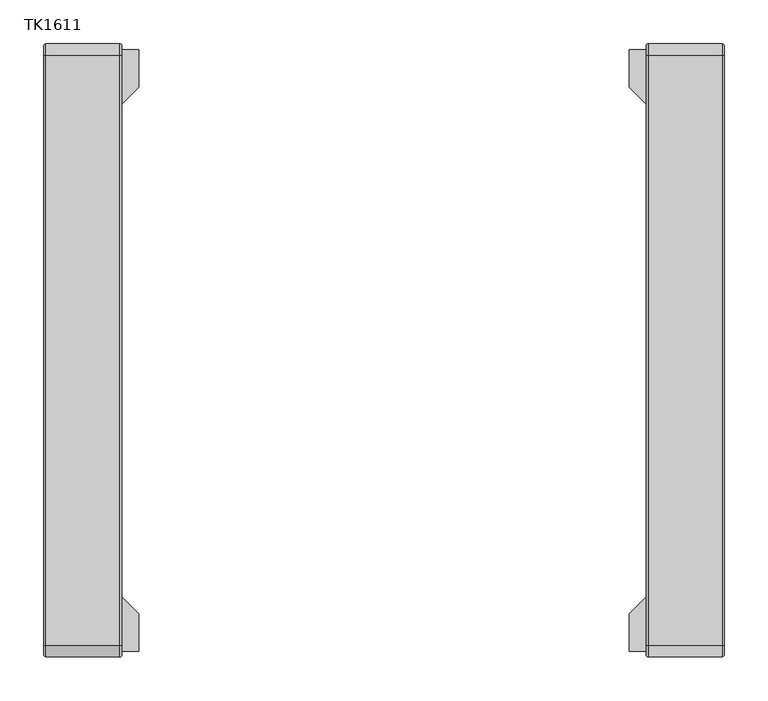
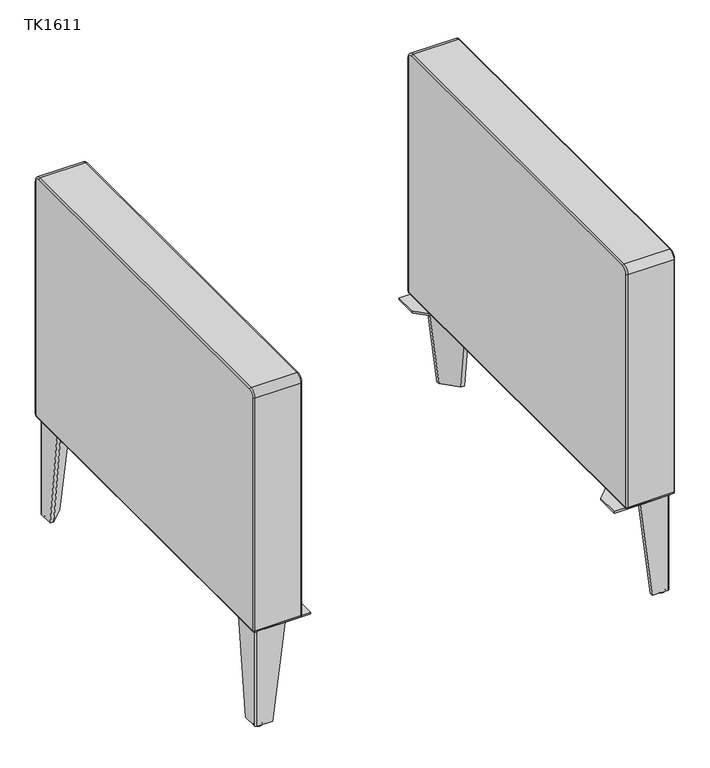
"""IFC4 building model written with IfcOpenShell, lengths in millimetres: furniture geometry, JSI-Teekan-Single_Seat_Lounge : TK1611."""

from ifc_helpers import new_model, si_unit, point, frame, origin, place, context, project, spatial, polyline, circle_curve, ellipse_curve, trimmed, outline, extrude, source, transform, mapped, element, save
from ifc_brep_helpers import plane_surface, cylinder_surface, revolved_surface, spline_surface, advanced_brep


def tk1611_fd0749d8(model_context):
    return source(origin(), model_context, "Body", "SolidModel", [
        advanced_brep(
        [(371.0013333, -340.133006, 3.1926572), (371.0013333, -325.6863843, 3.1926572), (371.0013333, -325.6863843, 4.9994321), (371.0013333, -340.133006, 4.9994321), (371.0013333, -336.9403488, 0.0), (371.0013333, -328.8790415, 0.0), (371.0013333, -332.9096951, 0.0), (371.0013333, -332.9096951, 4.9994321)],
        [
            (0, 1, circle_curve(frame((371.0013333, -332.9096951, 3.1926572), z_axis=(0.0, 0.0, 1.0), x_axis=(0.0, 1.0, 0.0)), 7.2233108)),
            (1, 2),
            (2, 3, circle_curve(frame((371.0013333, -332.9096951, 4.9994321), z_axis=(0.0, 0.0, -1.0), x_axis=(0.0, 1.0, 0.0)), 7.2233108)),
            (3, 0),
            (1, 0, circle_curve(frame((371.0013333, -332.9096951, 3.1926572), z_axis=(0.0, 0.0, 1.0), x_axis=(0.0, 1.0, 0.0)), 7.2233108)),
            (3, 2, circle_curve(frame((371.0013333, -332.9096951, 4.9994321), z_axis=(0.0, 0.0, -1.0), x_axis=(0.0, 1.0, 0.0)), 7.2233108)),
            (4, 5, circle_curve(frame((371.0013333, -332.9096951, 0.0), z_axis=(0.0, 0.0, 1.0), x_axis=(0.0, 1.0, 0.0)), 4.0306536)),
            (5, 1, circle_curve(frame((371.0013333, -328.8790415, 3.1926572), z_axis=(1.0, 0.0, 0.0), x_axis=(0.0, 1.0, 0.0)), 3.1926572)),
            (0, 4, circle_curve(frame((371.0013333, -336.9403488, 3.1926572), z_axis=(1.0, 0.0, 0.0), x_axis=(0.0, -1.0, 0.0)), 3.1926572)),
            (5, 4, circle_curve(frame((371.0013333, -332.9096951, 0.0), z_axis=(0.0, 0.0, 1.0), x_axis=(0.0, 1.0, 0.0)), 4.0306536)),
            (6, 5),
            (4, 6),
            (2, 7),
            (7, 3),
        ],
        [
            cylinder_surface(frame((371.0013333, -332.9096951, 14.2077797), z_axis=(0.0, 0.0, -1.0), x_axis=(0.0, 1.0, 0.0)), 7.2233108),
            revolved_surface(trimmed(ellipse_curve(frame((371.0013333, -328.8790415, 3.1926572), z_axis=(-1.0, 0.0, 0.0), x_axis=(0.0, 1.0, 0.0)), 3.1926572, 3.1926572), [point((371.0013333, -325.6863843, 3.1926572))], [point((371.0013333, -328.8790415, 0.0))], True, "CARTESIAN"), (371.0013333, -332.9096951, 14.2077797), (0.0, 0.0, -1.0)),
            plane_surface(frame((371.0013333, -332.9096951, 0.0), z_axis=(0.0, 0.0, -1.0), x_axis=(0.0, 1.0, 0.0))),
            plane_surface(frame((371.0013333, -332.9096951, 4.9994321), z_axis=(0.0, 0.0, 1.0), x_axis=(0.0, 1.0, 0.0))),
        ],
        [
            (0, [[1, 2, 3, 4]]),
            (0, [[5, -4, 6, -2]]),
            (1, [[7, 8, -1, 9]]),
            (1, [[10, -9, -5, -8]]),
            (2, [[11, -7, 12]]),
            (2, [[-12, -10, -11]]),
            (3, [[-3, 13, 14]]),
            (3, [[-6, -14, -13]]),
        ],
    ),
        advanced_brep(
        [(327.025, -336.5496631, 189.4817329), (327.025, -342.9, 189.4817329), (377.825, -342.9, 189.4817329), (381.0, -339.725, 189.4817329), (381.0, -288.9246631, 189.4817329), (374.65, -288.9246631, 189.4817329), (349.25, -336.5496631, 4.9994321), (374.65, -311.1496631, 4.9994321), (381.0, -311.1496631, 4.9994321), (381.0, -339.6969923, 4.9994321), (377.7969923, -342.9, 4.9994321), (349.25, -342.9, 4.9994321)],
        [
            (0, 1),
            (1, 2),
            (2, 3, circle_curve(frame((377.825, -339.725, 189.4817329), z_axis=(0.0, 0.0, 1.0), x_axis=(-1.0, 0.0, 0.0)), 3.175)),
            (3, 4),
            (4, 5),
            (5, 0),
            (6, 7),
            (7, 8),
            (8, 9),
            (9, 10, circle_curve(frame((377.7969923, -339.6969923, 4.9994321), z_axis=(0.0, 0.0, -1.0), x_axis=(-1.0, 0.0, 0.0)), 3.2030077)),
            (10, 11),
            (11, 6),
            (11, 1),
            (0, 6),
            (10, 2),
            (9, 3),
            (8, 4),
            (7, 5),
        ],
        [
            plane_surface(frame((361.4208333, -323.3206649, 189.4817329), z_axis=(0.0, 0.0, 1.0), x_axis=(-1.0, 0.0, 0.0))),
            plane_surface(frame((368.8244987, -330.7243303, 4.9994321), z_axis=(0.0, 0.0, -1.0), x_axis=(-1.0, 0.0, 0.0))),
            plane_surface(frame((349.25, -339.7248316, 4.9994321), z_axis=(-0.9928212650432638, 0.0, -0.11960742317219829), x_axis=(0.0, -1.0, 0.0))),
            plane_surface(frame((363.5234961, -342.9, 4.9994321), z_axis=(0.0, -1.0, 0.0), x_axis=(1.0, 0.0, 0.0))),
            spline_surface(2, 1, [[(377.7969923, -342.9, 4.9994321), (377.825, -342.9, 189.4817329)], [(381.0, -342.9, 4.9994321), (380.99999999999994, -342.9, 189.4817329)], [(381.0, -339.6969923, 4.9994321), (381.0, -339.725, 189.4817329)]], [3, 3], [2, 2], [0.0, 1.0], [0.0, 1.0], weights=[[1.0, 1.0], [0.7071067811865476, 0.7071067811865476], [1.0, 1.0]]),
            plane_surface(frame((381.0, -325.4233277, 4.9994321), z_axis=(1.0, 0.0, 0.0), x_axis=(0.0, 1.0, 0.0))),
            plane_surface(frame((377.825, -311.1496631, 4.9994321), z_axis=(0.0, 0.992821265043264, -0.11960742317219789), x_axis=(-1.0, 0.0, 0.0))),
            plane_surface(frame((361.95, -323.8496631, 4.9994321), z_axis=(-0.7045550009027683, 0.7045550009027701, -0.08487933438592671), x_axis=(-0.7071067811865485, -0.7071067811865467, 0.0))),
        ],
        [
            (0, [[1, 2, 3, 4, 5, 6]]),
            (1, [[7, 8, 9, 10, 11, 12]]),
            (2, [[-12, 13, -1, 14]]),
            (3, [[-11, 15, -2, -13]]),
            (4, [[-10, 16, -3, -15]]),
            (5, [[-9, 17, -4, -16]]),
            (6, [[-8, 18, -5, -17]]),
            (7, [[-7, -14, -6, -18]]),
        ],
    ),
        extrude(outline(polyline([(279.4, -342.9), (279.4, -300.0375), (338.1375, -241.3), (381.0, -241.3), (381.0, -342.9), (279.4, -342.9)])), frame((0.0, 0.0, 189.4817329), z_axis=(0.0, 0.0, 1.0), x_axis=(1.0, 0.0, 0.0)), (0.0, 0.0, 1.0), 3.175),
        advanced_brep(
        [(-371.0013333, -340.133006, 3.1926572), (-371.0013333, -340.133006, 4.9994321), (-371.0013333, -325.6863843, 4.9994321), (-371.0013333, -325.6863843, 3.1926572), (-371.0013333, -336.9403488, 0.0), (-371.0013333, -328.8790415, 0.0), (-371.0013333, -332.9096951, 0.0), (-371.0013333, -332.9096951, 4.9994321)],
        [
            (0, 1),
            (1, 2, circle_curve(frame((-371.0013333, -332.9096951, 4.9994321), z_axis=(0.0, 0.0, -1.0), x_axis=(0.0, 1.0, 0.0)), 7.2233108)),
            (2, 3),
            (3, 0, circle_curve(frame((-371.0013333, -332.9096951, 3.1926572), z_axis=(0.0, 0.0, 1.0), x_axis=(0.0, 1.0, 0.0)), 7.2233108)),
            (2, 1, circle_curve(frame((-371.0013333, -332.9096951, 4.9994321), z_axis=(0.0, 0.0, -1.0), x_axis=(0.0, 1.0, 0.0)), 7.2233108)),
            (0, 3, circle_curve(frame((-371.0013333, -332.9096951, 3.1926572), z_axis=(0.0, 0.0, 1.0), x_axis=(0.0, 1.0, 0.0)), 7.2233108)),
            (4, 0, circle_curve(frame((-371.0013333, -336.9403488, 3.1926572), z_axis=(-1.0, 0.0, 0.0), x_axis=(0.0, -1.0, 0.0)), 3.1926572)),
            (3, 5, circle_curve(frame((-371.0013333, -328.8790415, 3.1926572), z_axis=(-1.0, 0.0, 0.0), x_axis=(0.0, 1.0, 0.0)), 3.1926572)),
            (5, 4, circle_curve(frame((-371.0013333, -332.9096951, 0.0), z_axis=(0.0, 0.0, 1.0), x_axis=(0.0, 1.0, 0.0)), 4.0306536)),
            (4, 5, circle_curve(frame((-371.0013333, -332.9096951, 0.0), z_axis=(0.0, 0.0, 1.0), x_axis=(0.0, 1.0, 0.0)), 4.0306536)),
            (6, 4),
            (5, 6),
            (1, 7),
            (7, 2),
        ],
        [
            cylinder_surface(frame((-371.0013333, -332.9096951, 14.2077797), z_axis=(0.0, 0.0, -1.0), x_axis=(0.0, 1.0, 0.0)), 7.2233108),
            revolved_surface(trimmed(ellipse_curve(frame((-371.0013333, -328.8790415, 3.1926572), z_axis=(-1.0, 0.0, 0.0), x_axis=(0.0, 1.0, 0.0)), 3.1926572, 3.1926572), [point((-371.0013333, -325.6863843, 3.1926572))], [point((-371.0013333, -328.8790415, 0.0))], True, "CARTESIAN"), (-371.0013333, -332.9096951, 14.2077797), (0.0, 0.0, -1.0)),
            plane_surface(frame((-371.0013333, -332.9096951, 0.0), z_axis=(0.0, 0.0, -1.0), x_axis=(0.0, 1.0, 0.0))),
            plane_surface(frame((-371.0013333, -332.9096951, 4.9994321), z_axis=(0.0, 0.0, 1.0), x_axis=(0.0, 1.0, 0.0))),
        ],
        [
            (0, [[1, 2, 3, 4]]),
            (0, [[-3, 5, -1, 6]]),
            (1, [[7, -4, 8, 9]]),
            (1, [[-8, -6, -7, 10]]),
            (2, [[11, -9, 12]]),
            (2, [[-12, -10, -11]]),
            (3, [[13, 14, -2]]),
            (3, [[-14, -13, -5]]),
        ],
    ),
        advanced_brep(
        [(-327.025, -336.5496631, 189.4817329), (-374.65, -288.9246631, 189.4817329), (-381.0, -288.9246631, 189.4817329), (-381.0, -339.725, 189.4817329), (-377.825, -342.9, 189.4817329), (-327.025, -342.9, 189.4817329), (-349.25, -336.5496631, 4.9994321), (-349.25, -342.9, 4.9994321), (-377.7969923, -342.9, 4.9994321), (-381.0, -339.6969923, 4.9994321), (-381.0, -311.1496631, 4.9994321), (-374.65, -311.1496631, 4.9994321)],
        [
            (0, 1),
            (1, 2),
            (2, 3),
            (3, 4, circle_curve(frame((-377.825, -339.725, 189.4817329), z_axis=(0.0, 0.0, 1.0), x_axis=(1.0, 0.0, 0.0)), 3.175)),
            (4, 5),
            (5, 0),
            (6, 7),
            (7, 8),
            (8, 9, circle_curve(frame((-377.7969923, -339.6969923, 4.9994321), z_axis=(0.0, 0.0, -1.0), x_axis=(1.0, 0.0, 0.0)), 3.2030077)),
            (9, 10),
            (10, 11),
            (11, 6),
            (6, 0),
            (5, 7),
            (4, 8),
            (3, 9),
            (2, 10),
            (1, 11),
        ],
        [
            plane_surface(frame((-361.4208333, -323.3206649, 189.4817329), z_axis=(0.0, 0.0, 1.0), x_axis=(1.0, 0.0, 0.0))),
            plane_surface(frame((-368.8244987, -330.7243303, 4.9994321), z_axis=(0.0, 0.0, -1.0), x_axis=(1.0, 0.0, 0.0))),
            plane_surface(frame((-349.25, -339.7248316, 4.9994321), z_axis=(0.9928212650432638, 0.0, -0.11960742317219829), x_axis=(0.0, -1.0, 0.0))),
            plane_surface(frame((-363.5234961, -342.9, 4.9994321), z_axis=(0.0, -1.0, 0.0), x_axis=(-1.0, 0.0, 0.0))),
            spline_surface(1, 2, [[(-377.7969923, -342.9, 4.9994321), (-381.0, -342.9, 4.9994321), (-381.0, -339.6969923, 4.9994321)], [(-377.825, -342.9, 189.4817329), (-380.99999999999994, -342.9, 189.4817329), (-381.0, -339.725, 189.4817329)]], [2, 2], [3, 3], [0.0, 1.0], [0.0, 1.0], weights=[[1.0, 0.7071067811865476, 1.0], [1.0, 0.7071067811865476, 1.0]]),
            plane_surface(frame((-381.0, -325.4233277, 4.9994321), z_axis=(-1.0, 0.0, 0.0), x_axis=(0.0, 1.0, 0.0))),
            plane_surface(frame((-377.825, -311.1496631, 4.9994321), z_axis=(0.0, 0.992821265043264, -0.11960742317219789), x_axis=(1.0, 0.0, 0.0))),
            plane_surface(frame((-361.95, -323.8496631, 4.9994321), z_axis=(0.7045550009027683, 0.7045550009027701, -0.08487933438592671), x_axis=(0.7071067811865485, -0.7071067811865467, 0.0))),
        ],
        [
            (0, [[1, 2, 3, 4, 5, 6]]),
            (1, [[7, 8, 9, 10, 11, 12]]),
            (2, [[13, -6, 14, -7]]),
            (3, [[-14, -5, 15, -8]]),
            (4, [[-15, -4, 16, -9]]),
            (5, [[-16, -3, 17, -10]]),
            (6, [[-17, -2, 18, -11]]),
            (7, [[-18, -1, -13, -12]]),
        ],
    ),
        extrude(outline(polyline([(-279.4, -342.9), (-381.0, -342.9), (-381.0, -241.3), (-338.1375, -241.3), (-279.4, -300.0375), (-279.4, -342.9)])), frame((0.0, 0.0, 189.4817329), z_axis=(0.0, 0.0, 1.0), x_axis=(1.0, 0.0, 0.0)), (0.0, 0.0, 1.0), 3.175),
        advanced_brep(
        [(371.0013333, 340.133006, 3.1926572), (371.0013333, 340.133006, 4.9994321), (371.0013333, 325.6863843, 4.9994321), (371.0013333, 325.6863843, 3.1926572), (371.0013333, 336.9403488, 0.0), (371.0013333, 328.8790415, 0.0), (371.0013333, 332.9096951, 0.0), (371.0013333, 332.9096951, 4.9994321)],
        [
            (0, 1),
            (1, 2, circle_curve(frame((371.0013333, 332.9096951, 4.9994321), z_axis=(0.0, 0.0, -1.0), x_axis=(0.0, -1.0, 0.0)), 7.2233108)),
            (2, 3),
            (3, 0, circle_curve(frame((371.0013333, 332.9096951, 3.1926572), z_axis=(0.0, 0.0, 1.0), x_axis=(0.0, -1.0, 0.0)), 7.2233108)),
            (2, 1, circle_curve(frame((371.0013333, 332.9096951, 4.9994321), z_axis=(0.0, 0.0, -1.0), x_axis=(0.0, -1.0, 0.0)), 7.2233108)),
            (0, 3, circle_curve(frame((371.0013333, 332.9096951, 3.1926572), z_axis=(0.0, 0.0, 1.0), x_axis=(0.0, -1.0, 0.0)), 7.2233108)),
            (4, 0, circle_curve(frame((371.0013333, 336.9403488, 3.1926572), z_axis=(1.0, 0.0, 0.0), x_axis=(0.0, 1.0, 0.0)), 3.1926572)),
            (3, 5, circle_curve(frame((371.0013333, 328.8790415, 3.1926572), z_axis=(1.0, 0.0, 0.0), x_axis=(0.0, -1.0, 0.0)), 3.1926572)),
            (5, 4, circle_curve(frame((371.0013333, 332.9096951, 0.0), z_axis=(0.0, 0.0, 1.0), x_axis=(0.0, -1.0, 0.0)), 4.0306536)),
            (4, 5, circle_curve(frame((371.0013333, 332.9096951, 0.0), z_axis=(0.0, 0.0, 1.0), x_axis=(0.0, -1.0, 0.0)), 4.0306536)),
            (6, 4),
            (5, 6),
            (1, 7),
            (7, 2),
        ],
        [
            cylinder_surface(frame((371.0013333, 332.9096951, 14.2077797), z_axis=(0.0, 0.0, -1.0), x_axis=(0.0, -1.0, 0.0)), 7.2233108),
            revolved_surface(trimmed(ellipse_curve(frame((371.0013333, 328.8790415, 3.1926572), z_axis=(1.0, 0.0, 0.0), x_axis=(0.0, -1.0, 0.0)), 3.1926572, 3.1926572), [point((371.0013333, 325.6863843, 3.1926572))], [point((371.0013333, 328.8790415, 0.0))], True, "CARTESIAN"), (371.0013333, 332.9096951, 14.2077797), (0.0, 0.0, -1.0)),
            plane_surface(frame((371.0013333, 332.9096951, 0.0), z_axis=(0.0, 0.0, -1.0), x_axis=(0.0, -1.0, 0.0))),
            plane_surface(frame((371.0013333, 332.9096951, 4.9994321), z_axis=(0.0, 0.0, 1.0), x_axis=(0.0, -1.0, 0.0))),
        ],
        [
            (0, [[1, 2, 3, 4]]),
            (0, [[-3, 5, -1, 6]]),
            (1, [[7, -4, 8, 9]]),
            (1, [[-8, -6, -7, 10]]),
            (2, [[11, -9, 12]]),
            (2, [[-12, -10, -11]]),
            (3, [[13, 14, -2]]),
            (3, [[-14, -13, -5]]),
        ],
    ),
        advanced_brep(
        [(327.025, 336.5496631, 189.4817329), (374.65, 288.9246631, 189.4817329), (381.0, 288.9246631, 189.4817329), (381.0, 339.725, 189.4817329), (377.825, 342.9, 189.4817329), (327.025, 342.9, 189.4817329), (349.25, 336.5496631, 4.9994321), (349.25, 342.9, 4.9994321), (377.7969923, 342.9, 4.9994321), (381.0, 339.6969923, 4.9994321), (381.0, 311.1496631, 4.9994321), (374.65, 311.1496631, 4.9994321)],
        [
            (0, 1),
            (1, 2),
            (2, 3),
            (3, 4, circle_curve(frame((377.825, 339.725, 189.4817329), z_axis=(0.0, 0.0, 1.0), x_axis=(-1.0, 0.0, 0.0)), 3.175)),
            (4, 5),
            (5, 0),
            (6, 7),
            (7, 8),
            (8, 9, circle_curve(frame((377.7969923, 339.6969923, 4.9994321), z_axis=(0.0, 0.0, -1.0), x_axis=(-1.0, 0.0, 0.0)), 3.2030077)),
            (9, 10),
            (10, 11),
            (11, 6),
            (6, 0),
            (5, 7),
            (4, 8),
            (3, 9),
            (2, 10),
            (1, 11),
        ],
        [
            plane_surface(frame((361.4208333, 323.3206649, 189.4817329), z_axis=(0.0, 0.0, 1.0), x_axis=(-1.0, 0.0, 0.0))),
            plane_surface(frame((368.8244987, 330.7243303, 4.9994321), z_axis=(0.0, 0.0, -1.0), x_axis=(-1.0, 0.0, 0.0))),
            plane_surface(frame((349.25, 339.7248316, 4.9994321), z_axis=(-0.9928212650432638, 0.0, -0.11960742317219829), x_axis=(0.0, 1.0, 0.0))),
            plane_surface(frame((363.5234961, 342.9, 4.9994321), z_axis=(0.0, 1.0, 0.0), x_axis=(1.0, 0.0, 0.0))),
            spline_surface(1, 2, [[(377.7969923, 342.9, 4.9994321), (381.0, 342.9, 4.9994321), (381.0, 339.6969923, 4.9994321)], [(377.825, 342.9, 189.4817329), (380.99999999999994, 342.9, 189.4817329), (381.0, 339.725, 189.4817329)]], [2, 2], [3, 3], [0.0, 1.0], [0.0, 1.0], weights=[[1.0, 0.7071067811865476, 1.0], [1.0, 0.7071067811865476, 1.0]]),
            plane_surface(frame((381.0, 325.4233277, 4.9994321), z_axis=(1.0, 0.0, 0.0), x_axis=(0.0, -1.0, 0.0))),
            plane_surface(frame((377.825, 311.1496631, 4.9994321), z_axis=(0.0, -0.992821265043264, -0.11960742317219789), x_axis=(-1.0, 0.0, 0.0))),
            plane_surface(frame((361.95, 323.8496631, 4.9994321), z_axis=(-0.7045550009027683, -0.7045550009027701, -0.08487933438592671), x_axis=(-0.7071067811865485, 0.7071067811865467, 0.0))),
        ],
        [
            (0, [[1, 2, 3, 4, 5, 6]]),
            (1, [[7, 8, 9, 10, 11, 12]]),
            (2, [[13, -6, 14, -7]]),
            (3, [[-14, -5, 15, -8]]),
            (4, [[-15, -4, 16, -9]]),
            (5, [[-16, -3, 17, -10]]),
            (6, [[-17, -2, 18, -11]]),
            (7, [[-18, -1, -13, -12]]),
        ],
    ),
        extrude(outline(polyline([(279.4, 342.9), (381.0, 342.9), (381.0, 241.3), (338.1375, 241.3), (279.4, 300.0375), (279.4, 342.9)])), frame((0.0, 0.0, 189.4817329), z_axis=(0.0, 0.0, 1.0), x_axis=(1.0, 0.0, 0.0)), (0.0, 0.0, 1.0), 3.175),
        advanced_brep(
        [(-371.0013333, 340.133006, 3.1926572), (-371.0013333, 325.6863843, 3.1926572), (-371.0013333, 325.6863843, 4.9994321), (-371.0013333, 340.133006, 4.9994321), (-371.0013333, 336.9403488, 0.0), (-371.0013333, 328.8790415, 0.0), (-371.0013333, 332.9096951, 0.0), (-371.0013333, 332.9096951, 4.9994321)],
        [
            (0, 1, circle_curve(frame((-371.0013333, 332.9096951, 3.1926572), z_axis=(0.0, 0.0, 1.0), x_axis=(0.0, -1.0, 0.0)), 7.2233108)),
            (1, 2),
            (2, 3, circle_curve(frame((-371.0013333, 332.9096951, 4.9994321), z_axis=(0.0, 0.0, -1.0), x_axis=(0.0, -1.0, 0.0)), 7.2233108)),
            (3, 0),
            (1, 0, circle_curve(frame((-371.0013333, 332.9096951, 3.1926572), z_axis=(0.0, 0.0, 1.0), x_axis=(0.0, -1.0, 0.0)), 7.2233108)),
            (3, 2, circle_curve(frame((-371.0013333, 332.9096951, 4.9994321), z_axis=(0.0, 0.0, -1.0), x_axis=(0.0, -1.0, 0.0)), 7.2233108)),
            (4, 5, circle_curve(frame((-371.0013333, 332.9096951, 0.0), z_axis=(0.0, 0.0, 1.0), x_axis=(0.0, -1.0, 0.0)), 4.0306536)),
            (5, 1, circle_curve(frame((-371.0013333, 328.8790415, 3.1926572), z_axis=(-1.0, 0.0, 0.0), x_axis=(0.0, -1.0, 0.0)), 3.1926572)),
            (0, 4, circle_curve(frame((-371.0013333, 336.9403488, 3.1926572), z_axis=(-1.0, 0.0, 0.0), x_axis=(0.0, 1.0, 0.0)), 3.1926572)),
            (5, 4, circle_curve(frame((-371.0013333, 332.9096951, 0.0), z_axis=(0.0, 0.0, 1.0), x_axis=(0.0, -1.0, 0.0)), 4.0306536)),
            (6, 5),
            (4, 6),
            (2, 7),
            (7, 3),
        ],
        [
            cylinder_surface(frame((-371.0013333, 332.9096951, 14.2077797), z_axis=(0.0, 0.0, -1.0), x_axis=(0.0, -1.0, 0.0)), 7.2233108),
            revolved_surface(trimmed(ellipse_curve(frame((-371.0013333, 328.8790415, 3.1926572), z_axis=(1.0, 0.0, 0.0), x_axis=(0.0, -1.0, 0.0)), 3.1926572, 3.1926572), [point((-371.0013333, 325.6863843, 3.1926572))], [point((-371.0013333, 328.8790415, 0.0))], True, "CARTESIAN"), (-371.0013333, 332.9096951, 14.2077797), (0.0, 0.0, -1.0)),
            plane_surface(frame((-371.0013333, 332.9096951, 0.0), z_axis=(0.0, 0.0, -1.0), x_axis=(0.0, -1.0, 0.0))),
            plane_surface(frame((-371.0013333, 332.9096951, 4.9994321), z_axis=(0.0, 0.0, 1.0), x_axis=(0.0, -1.0, 0.0))),
        ],
        [
            (0, [[1, 2, 3, 4]]),
            (0, [[5, -4, 6, -2]]),
            (1, [[7, 8, -1, 9]]),
            (1, [[10, -9, -5, -8]]),
            (2, [[11, -7, 12]]),
            (2, [[-12, -10, -11]]),
            (3, [[-3, 13, 14]]),
            (3, [[-6, -14, -13]]),
        ],
    ),
        advanced_brep(
        [(-327.025, 336.5496631, 189.4817329), (-327.025, 342.9, 189.4817329), (-377.825, 342.9, 189.4817329), (-381.0, 339.725, 189.4817329), (-381.0, 288.9246631, 189.4817329), (-374.65, 288.9246631, 189.4817329), (-349.25, 336.5496631, 4.9994321), (-374.65, 311.1496631, 4.9994321), (-381.0, 311.1496631, 4.9994321), (-381.0, 339.6969923, 4.9994321), (-377.7969923, 342.9, 4.9994321), (-349.25, 342.9, 4.9994321)],
        [
            (0, 1),
            (1, 2),
            (2, 3, circle_curve(frame((-377.825, 339.725, 189.4817329), z_axis=(0.0, 0.0, 1.0), x_axis=(1.0, 0.0, 0.0)), 3.175)),
            (3, 4),
            (4, 5),
            (5, 0),
            (6, 7),
            (7, 8),
            (8, 9),
            (9, 10, circle_curve(frame((-377.7969923, 339.6969923, 4.9994321), z_axis=(0.0, 0.0, -1.0), x_axis=(1.0, 0.0, 0.0)), 3.2030077)),
            (10, 11),
            (11, 6),
            (11, 1),
            (0, 6),
            (10, 2),
            (9, 3),
            (8, 4),
            (7, 5),
        ],
        [
            plane_surface(frame((-361.4208333, 323.3206649, 189.4817329), z_axis=(0.0, 0.0, 1.0), x_axis=(1.0, 0.0, 0.0))),
            plane_surface(frame((-368.8244987, 330.7243303, 4.9994321), z_axis=(0.0, 0.0, -1.0), x_axis=(1.0, 0.0, 0.0))),
            plane_surface(frame((-349.25, 339.7248316, 4.9994321), z_axis=(0.9928212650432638, 0.0, -0.11960742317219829), x_axis=(0.0, 1.0, 0.0))),
            plane_surface(frame((-363.5234961, 342.9, 4.9994321), z_axis=(0.0, 1.0, 0.0), x_axis=(-1.0, 0.0, 0.0))),
            spline_surface(2, 1, [[(-377.7969923, 342.9, 4.9994321), (-377.825, 342.9, 189.4817329)], [(-381.0, 342.9, 4.9994321), (-380.99999999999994, 342.9, 189.4817329)], [(-381.0, 339.6969923, 4.9994321), (-381.0, 339.725, 189.4817329)]], [3, 3], [2, 2], [0.0, 1.0], [0.0, 1.0], weights=[[1.0, 1.0], [0.7071067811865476, 0.7071067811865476], [1.0, 1.0]]),
            plane_surface(frame((-381.0, 325.4233277, 4.9994321), z_axis=(-1.0, 0.0, 0.0), x_axis=(0.0, -1.0, 0.0))),
            plane_surface(frame((-377.825, 311.1496631, 4.9994321), z_axis=(0.0, -0.992821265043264, -0.11960742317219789), x_axis=(1.0, 0.0, 0.0))),
            plane_surface(frame((-361.95, 323.8496631, 4.9994321), z_axis=(0.7045550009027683, -0.7045550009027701, -0.08487933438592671), x_axis=(0.7071067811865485, 0.7071067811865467, 0.0))),
        ],
        [
            (0, [[1, 2, 3, 4, 5, 6]]),
            (1, [[7, 8, 9, 10, 11, 12]]),
            (2, [[-12, 13, -1, 14]]),
            (3, [[-11, 15, -2, -13]]),
            (4, [[-10, 16, -3, -15]]),
            (5, [[-9, 17, -4, -16]]),
            (6, [[-8, 18, -5, -17]]),
            (7, [[-7, -14, -6, -18]]),
        ],
    ),
        extrude(outline(polyline([(-279.4, 342.9), (-279.4, 300.0375), (-338.1375, 241.3), (-381.0, 241.3), (-381.0, 342.9), (-279.4, 342.9)])), frame((0.0, 0.0, 189.4817329), z_axis=(0.0, 0.0, 1.0), x_axis=(1.0, 0.0, 0.0)), (0.0, 0.0, 1.0), 3.175),
        advanced_brep(
        [(-300.83125, -349.2253956, 649.9721851), (-298.45, -346.8441456, 649.9721851), (-298.45, -336.5253956, 660.2909351), (-300.83125, -336.5253956, 662.6721851), (-384.96875, -336.5253956, 662.6721851), (-384.96875, -349.2253956, 649.9721851), (-387.35, -336.5253956, 660.2909351), (-387.35, -346.8441456, 649.9721851), (-300.83125, -349.2253956, 197.5346851), (-298.45, -346.8441456, 197.5346851), (-384.96875, -349.2253956, 197.5346851), (-387.35, -346.8441456, 197.5346851), (-300.83125, -344.4628956, 192.7721851), (-298.45, -344.4628956, 195.1534351), (-384.96875, -344.4628956, 192.7721851), (-387.35, -344.4628956, 195.1534351), (-300.83125, 344.5121044, 192.7721851), (-298.45, 344.5121044, 195.1534351), (-384.96875, 344.5121044, 192.7721851), (-387.35, 344.5121044, 195.1534351), (-300.83125, 349.2746044, 197.5346851), (-298.45, 346.8933544, 197.5346851), (-384.96875, 349.2746044, 197.5346851), (-387.35, 346.8933544, 197.5346851), (-300.83125, 349.2746044, 649.9721851), (-298.45, 346.8933544, 649.9721851), (-384.96875, 349.2746044, 649.9721851), (-387.35, 346.8933544, 649.9721851), (-300.83125, 336.5746044, 662.6721851), (-298.45, 336.5746044, 660.2909351), (-384.96875, 336.5746044, 662.6721851), (-387.35, 336.5746044, 660.2909351)],
        [
            (0, 1, circle_curve(frame((-300.83125, -346.8441456, 649.9721851), z_axis=(0.0, 0.0, 1.0), x_axis=(-1.0, 0.0, 0.0)), 2.38125)),
            (1, 2, circle_curve(frame((-298.45, -336.5253956, 649.9721851), z_axis=(-1.0, 0.0, 0.0), x_axis=(0.0, 0.0, 1.0)), 10.31875)),
            (2, 3, circle_curve(frame((-300.83125, -336.5253956, 660.2909351), z_axis=(0.0, -1.0, 0.0), x_axis=(-1.0, 0.0, 0.0)), 2.38125)),
            (3, 0, circle_curve(frame((-300.83125, -336.5253956, 649.9721851), z_axis=(1.0, 0.0, 0.0), x_axis=(0.0, 0.0, 1.0)), 12.7)),
            (3, 4),
            (4, 5, circle_curve(frame((-384.96875, -336.5253956, 649.9721851), z_axis=(1.0, 0.0, 0.0), x_axis=(0.0, 0.0, 1.0)), 12.7)),
            (5, 0),
            (4, 6, circle_curve(frame((-384.96875, -336.5253956, 660.2909351), z_axis=(0.0, -1.0, 0.0), x_axis=(-1.0, 0.0, 0.0)), 2.38125)),
            (6, 7, circle_curve(frame((-387.35, -336.5253956, 649.9721851), z_axis=(1.0, 0.0, 0.0), x_axis=(0.0, 0.0, 1.0)), 10.31875)),
            (7, 5, circle_curve(frame((-384.96875, -346.8441456, 649.9721851), z_axis=(0.0, 0.0, 1.0), x_axis=(-1.0, 0.0, 0.0)), 2.38125)),
            (0, 8),
            (8, 9, circle_curve(frame((-300.83125, -346.8441456, 197.5346851), z_axis=(0.0, 0.0, 1.0), x_axis=(-1.0, 0.0, 0.0)), 2.38125)),
            (9, 1),
            (5, 10),
            (10, 8),
            (7, 11),
            (11, 10, circle_curve(frame((-384.96875, -346.8441456, 197.5346851), z_axis=(0.0, 0.0, 1.0), x_axis=(-1.0, 0.0, 0.0)), 2.38125)),
            (8, 12, circle_curve(frame((-300.83125, -344.4628956, 197.5346851), z_axis=(1.0, 0.0, 0.0), x_axis=(0.0, -1.0, 0.0)), 4.7625)),
            (12, 13, circle_curve(frame((-300.83125, -344.4628956, 195.1534351), z_axis=(0.0, -1.0, 0.0), x_axis=(-1.0, 0.0, 0.0)), 2.38125)),
            (13, 9, circle_curve(frame((-298.45, -344.4628956, 197.5346851), z_axis=(-1.0, 0.0, 0.0), x_axis=(0.0, -1.0, 0.0)), 2.38125)),
            (10, 14, circle_curve(frame((-384.96875, -344.4628956, 197.5346851), z_axis=(1.0, 0.0, 0.0), x_axis=(0.0, -1.0, 0.0)), 4.7625)),
            (14, 12),
            (11, 15, circle_curve(frame((-387.35, -344.4628956, 197.5346851), z_axis=(1.0, 0.0, 0.0), x_axis=(0.0, -1.0, 0.0)), 2.38125)),
            (15, 14, circle_curve(frame((-384.96875, -344.4628956, 195.1534351), z_axis=(0.0, -1.0, 0.0), x_axis=(-1.0, 0.0, 0.0)), 2.38125)),
            (12, 16),
            (16, 17, circle_curve(frame((-300.83125, 344.5121044, 195.1534351), z_axis=(0.0, -1.0, 0.0), x_axis=(-1.0, 0.0, 0.0)), 2.38125)),
            (17, 13),
            (14, 18),
            (18, 16),
            (15, 19),
            (19, 18, circle_curve(frame((-384.96875, 344.5121044, 195.1534351), z_axis=(0.0, -1.0, 0.0), x_axis=(-1.0, 0.0, 0.0)), 2.38125)),
            (16, 20, circle_curve(frame((-300.83125, 344.5121044, 197.5346851), z_axis=(1.0, 0.0, 0.0), x_axis=(0.0, 0.0, -1.0)), 4.7625)),
            (20, 21, circle_curve(frame((-300.83125, 346.8933544, 197.5346851), z_axis=(0.0, 0.0, -1.0), x_axis=(-1.0, 0.0, 0.0)), 2.38125)),
            (21, 17, circle_curve(frame((-298.45, 344.5121044, 197.5346851), z_axis=(-1.0, 0.0, 0.0), x_axis=(0.0, 0.0, -1.0)), 2.38125)),
            (18, 22, circle_curve(frame((-384.96875, 344.5121044, 197.5346851), z_axis=(1.0, 0.0, 0.0), x_axis=(0.0, 0.0, -1.0)), 4.7625)),
            (22, 20),
            (19, 23, circle_curve(frame((-387.35, 344.5121044, 197.5346851), z_axis=(1.0, 0.0, 0.0), x_axis=(0.0, 0.0, -1.0)), 2.38125)),
            (23, 22, circle_curve(frame((-384.96875, 346.8933544, 197.5346851), z_axis=(0.0, 0.0, -1.0), x_axis=(-1.0, 0.0, 0.0)), 2.38125)),
            (20, 24),
            (24, 25, circle_curve(frame((-300.83125, 346.8933544, 649.9721851), z_axis=(0.0, 0.0, -1.0), x_axis=(-1.0, 0.0, 0.0)), 2.38125)),
            (25, 21),
            (22, 26),
            (26, 24),
            (23, 27),
            (27, 26, circle_curve(frame((-384.96875, 346.8933544, 649.9721851), z_axis=(0.0, 0.0, -1.0), x_axis=(-1.0, 0.0, 0.0)), 2.38125)),
            (24, 28, circle_curve(frame((-300.83125, 336.5746044, 649.9721851), z_axis=(1.0, 0.0, 0.0), x_axis=(0.0, 1.0, 0.0)), 12.7)),
            (28, 29, circle_curve(frame((-300.83125, 336.5746044, 660.2909351), z_axis=(0.0, 1.0, 0.0), x_axis=(-1.0, 0.0, 0.0)), 2.38125)),
            (29, 25, circle_curve(frame((-298.45, 336.5746044, 649.9721851), z_axis=(-1.0, 0.0, 0.0), x_axis=(0.0, 1.0, 0.0)), 10.31875)),
            (26, 30, circle_curve(frame((-384.96875, 336.5746044, 649.9721851), z_axis=(1.0, 0.0, 0.0), x_axis=(0.0, 1.0, 0.0)), 12.7)),
            (30, 28),
            (27, 31, circle_curve(frame((-387.35, 336.5746044, 649.9721851), z_axis=(1.0, 0.0, 0.0), x_axis=(0.0, 1.0, 0.0)), 10.31875)),
            (31, 30, circle_curve(frame((-384.96875, 336.5746044, 660.2909351), z_axis=(0.0, 1.0, 0.0), x_axis=(-1.0, 0.0, 0.0)), 2.38125)),
            (29, 2),
            (28, 3),
            (30, 4),
            (31, 6),
        ],
        [
            revolved_surface(trimmed(ellipse_curve(frame((-300.83125, -336.5253956, 660.2909351), z_axis=(0.0, -1.0, 0.0), x_axis=(-1.0, 0.0, 0.0)), 2.38125, 2.38125), [point((-298.45, -336.5253956, 660.2909351))], [point((-300.83125, -336.5253956, 662.6721851))], True, "CARTESIAN"), (-387.35, -336.5253956, 649.9721851), (-1.0, 0.0, 0.0)),
            cylinder_surface(frame((-387.35, -336.5253956, 649.9721851), z_axis=(-1.0, 0.0, 0.0), x_axis=(0.0, 0.0, 1.0)), 12.7),
            revolved_surface(trimmed(ellipse_curve(frame((-384.96875, -336.5253956, 660.2909351), z_axis=(0.0, -1.0, 0.0), x_axis=(-1.0, 0.0, 0.0)), 2.38125, 2.38125), [point((-384.96875, -336.5253956, 662.6721851))], [point((-387.35, -336.5253956, 660.2909351))], True, "CARTESIAN"), (-387.35, -336.5253956, 649.9721851), (-1.0, 0.0, 0.0)),
            cylinder_surface(frame((-300.83125, -346.8441456, 649.9721851), z_axis=(0.0, 0.0, 1.0), x_axis=(-1.0, 0.0, 0.0)), 2.38125),
            plane_surface(frame((-300.83125, -349.2253956, 649.9721851), z_axis=(0.0, -1.0, 0.0), x_axis=(0.0, 0.0, -1.0))),
            cylinder_surface(frame((-384.96875, -346.8441456, 649.9721851), z_axis=(0.0, 0.0, 1.0), x_axis=(-1.0, 0.0, 0.0)), 2.38125),
            revolved_surface(trimmed(ellipse_curve(frame((-300.83125, -346.8441456, 197.5346851), z_axis=(0.0, 0.0, -1.0), x_axis=(-1.0, 0.0, 0.0)), 2.38125, 2.38125), [point((-298.45, -346.8441456, 197.5346851))], [point((-300.83125, -349.2253956, 197.5346851))], True, "CARTESIAN"), (-387.35, -344.4628956, 197.5346851), (-1.0, 0.0, 0.0)),
            cylinder_surface(frame((-387.35, -344.4628956, 197.5346851), z_axis=(-1.0, 0.0, 0.0), x_axis=(0.0, -1.0, 0.0)), 4.7625),
            revolved_surface(trimmed(ellipse_curve(frame((-384.96875, -346.8441456, 197.5346851), z_axis=(0.0, 0.0, -1.0), x_axis=(-1.0, 0.0, 0.0)), 2.38125, 2.38125), [point((-384.96875, -349.2253956, 197.5346851))], [point((-387.35, -346.8441456, 197.5346851))], True, "CARTESIAN"), (-387.35, -344.4628956, 197.5346851), (-1.0, 0.0, 0.0)),
            cylinder_surface(frame((-300.83125, -344.4628956, 195.1534351), z_axis=(0.0, -1.0, 0.0), x_axis=(-1.0, 0.0, 0.0)), 2.38125),
            plane_surface(frame((-300.83125, -344.4628956, 192.7721851), z_axis=(0.0, 0.0, -1.0), x_axis=(0.0, 1.0, 0.0))),
            cylinder_surface(frame((-384.96875, -344.4628956, 195.1534351), z_axis=(0.0, -1.0, 0.0), x_axis=(-1.0, 0.0, 0.0)), 2.38125),
            revolved_surface(trimmed(ellipse_curve(frame((-300.83125, 344.5121044, 195.1534351), z_axis=(0.0, 1.0, 0.0), x_axis=(-1.0, 0.0, 0.0)), 2.38125, 2.38125), [point((-298.45, 344.5121044, 195.1534351))], [point((-300.83125, 344.5121044, 192.7721851))], True, "CARTESIAN"), (-387.35, 344.5121044, 197.5346851), (-1.0, 0.0, 0.0)),
            cylinder_surface(frame((-387.35, 344.5121044, 197.5346851), z_axis=(-1.0, 0.0, 0.0), x_axis=(0.0, 0.0, -1.0)), 4.7625),
            revolved_surface(trimmed(ellipse_curve(frame((-384.96875, 344.5121044, 195.1534351), z_axis=(0.0, 1.0, 0.0), x_axis=(-1.0, 0.0, 0.0)), 2.38125, 2.38125), [point((-384.96875, 344.5121044, 192.7721851))], [point((-387.35, 344.5121044, 195.1534351))], True, "CARTESIAN"), (-387.35, 344.5121044, 197.5346851), (-1.0, 0.0, 0.0)),
            cylinder_surface(frame((-300.83125, 346.8933544, 197.5346851), z_axis=(0.0, 0.0, -1.0), x_axis=(-1.0, 0.0, 0.0)), 2.38125),
            plane_surface(frame((-300.83125, 349.2746044, 197.5346851), z_axis=(0.0, 1.0, 0.0), x_axis=(0.0, 0.0, 1.0))),
            cylinder_surface(frame((-384.96875, 346.8933544, 197.5346851), z_axis=(0.0, 0.0, -1.0), x_axis=(-1.0, 0.0, 0.0)), 2.38125),
            revolved_surface(trimmed(ellipse_curve(frame((-300.83125, 346.8933544, 649.9721851), z_axis=(0.0, 0.0, 1.0), x_axis=(-1.0, 0.0, 0.0)), 2.38125, 2.38125), [point((-298.45, 346.8933544, 649.9721851))], [point((-300.83125, 349.2746044, 649.9721851))], True, "CARTESIAN"), (-387.35, 336.5746044, 649.9721851), (-1.0, 0.0, 0.0)),
            cylinder_surface(frame((-387.35, 336.5746044, 649.9721851), z_axis=(-1.0, 0.0, 0.0), x_axis=(0.0, 1.0, 0.0)), 12.7),
            revolved_surface(trimmed(ellipse_curve(frame((-384.96875, 346.8933544, 649.9721851), z_axis=(0.0, 0.0, 1.0), x_axis=(-1.0, 0.0, 0.0)), 2.38125, 2.38125), [point((-384.96875, 349.2746044, 649.9721851))], [point((-387.35, 346.8933544, 649.9721851))], True, "CARTESIAN"), (-387.35, 336.5746044, 649.9721851), (-1.0, 0.0, 0.0)),
            plane_surface(frame((-298.45, 336.5746044, 658.7034351), z_axis=(1.0, 0.0, 0.0), x_axis=(0.0, -1.0, 0.0))),
            cylinder_surface(frame((-300.83125, 336.5746044, 660.2909351), z_axis=(0.0, 1.0, 0.0), x_axis=(-1.0, 0.0, 0.0)), 2.38125),
            plane_surface(frame((-300.83125, 336.5746044, 662.6721851), z_axis=(0.0, 0.0, 1.0), x_axis=(0.0, -1.0, 0.0))),
            cylinder_surface(frame((-384.96875, 336.5746044, 660.2909351), z_axis=(0.0, 1.0, 0.0), x_axis=(-1.0, 0.0, 0.0)), 2.38125),
            plane_surface(frame((-387.35, 336.5746044, 660.2909351), z_axis=(-1.0, 0.0, 0.0), x_axis=(0.0, -1.0, 0.0))),
        ],
        [
            (0, [[1, 2, 3, 4]]),
            (1, [[5, 6, 7, -4]]),
            (2, [[8, 9, 10, -6]]),
            (3, [[11, 12, 13, -1]]),
            (4, [[14, 15, -11, -7]]),
            (5, [[16, 17, -14, -10]]),
            (6, [[18, 19, 20, -12]]),
            (7, [[21, 22, -18, -15]]),
            (8, [[23, 24, -21, -17]]),
            (9, [[25, 26, 27, -19]]),
            (10, [[28, 29, -25, -22]]),
            (11, [[30, 31, -28, -24]]),
            (12, [[32, 33, 34, -26]]),
            (13, [[35, 36, -32, -29]]),
            (14, [[37, 38, -35, -31]]),
            (15, [[39, 40, 41, -33]]),
            (16, [[42, 43, -39, -36]]),
            (17, [[44, 45, -42, -38]]),
            (18, [[46, 47, 48, -40]]),
            (19, [[49, 50, -46, -43]]),
            (20, [[51, 52, -49, -45]]),
            (21, [[-13, -20, -27, -34, -41, -48, 53, -2]]),
            (22, [[-53, -47, 54, -3]]),
            (23, [[-54, -50, 55, -5]]),
            (24, [[-55, -52, 56, -8]]),
            (25, [[-56, -51, -44, -37, -30, -23, -16, -9]]),
        ],
    ),
        advanced_brep(
        [(300.83125, -349.2253956, 649.9721851), (300.83125, -336.5253956, 662.6721851), (298.45, -336.5253956, 660.2909351), (298.45, -346.8441456, 649.9721851), (384.96875, -349.2253956, 649.9721851), (384.96875, -336.5253956, 662.6721851), (387.35, -346.8441456, 649.9721851), (387.35, -336.5253956, 660.2909351), (298.45, -346.8441456, 197.5346851), (300.83125, -349.2253956, 197.5346851), (384.96875, -349.2253956, 197.5346851), (387.35, -346.8441456, 197.5346851), (298.45, -344.4628956, 195.1534351), (300.83125, -344.4628956, 192.7721851), (384.96875, -344.4628956, 192.7721851), (387.35, -344.4628956, 195.1534351), (298.45, 344.5121044, 195.1534351), (300.83125, 344.5121044, 192.7721851), (384.96875, 344.5121044, 192.7721851), (387.35, 344.5121044, 195.1534351), (298.45, 346.8933544, 197.5346851), (300.83125, 349.2746044, 197.5346851), (384.96875, 349.2746044, 197.5346851), (387.35, 346.8933544, 197.5346851), (298.45, 346.8933544, 649.9721851), (300.83125, 349.2746044, 649.9721851), (384.96875, 349.2746044, 649.9721851), (387.35, 346.8933544, 649.9721851), (298.45, 336.5746044, 660.2909351), (300.83125, 336.5746044, 662.6721851), (384.96875, 336.5746044, 662.6721851), (387.35, 336.5746044, 660.2909351)],
        [
            (0, 1, circle_curve(frame((300.83125, -336.5253956, 649.9721851), z_axis=(-1.0, 0.0, 0.0), x_axis=(0.0, 0.0, 1.0)), 12.7)),
            (1, 2, circle_curve(frame((300.83125, -336.5253956, 660.2909351), z_axis=(0.0, -1.0, 0.0), x_axis=(1.0, 0.0, 0.0)), 2.38125)),
            (2, 3, circle_curve(frame((298.45, -336.5253956, 649.9721851), z_axis=(1.0, 0.0, 0.0), x_axis=(0.0, 0.0, 1.0)), 10.31875)),
            (3, 0, circle_curve(frame((300.83125, -346.8441456, 649.9721851), z_axis=(0.0, 0.0, 1.0), x_axis=(1.0, 0.0, 0.0)), 2.38125)),
            (0, 4),
            (4, 5, circle_curve(frame((384.96875, -336.5253956, 649.9721851), z_axis=(-1.0, 0.0, 0.0), x_axis=(0.0, 0.0, 1.0)), 12.7)),
            (5, 1),
            (4, 6, circle_curve(frame((384.96875, -346.8441456, 649.9721851), z_axis=(0.0, 0.0, 1.0), x_axis=(1.0, 0.0, 0.0)), 2.38125)),
            (6, 7, circle_curve(frame((387.35, -336.5253956, 649.9721851), z_axis=(-1.0, 0.0, 0.0), x_axis=(0.0, 0.0, 1.0)), 10.31875)),
            (7, 5, circle_curve(frame((384.96875, -336.5253956, 660.2909351), z_axis=(0.0, -1.0, 0.0), x_axis=(1.0, 0.0, 0.0)), 2.38125)),
            (3, 8),
            (8, 9, circle_curve(frame((300.83125, -346.8441456, 197.5346851), z_axis=(0.0, 0.0, 1.0), x_axis=(1.0, 0.0, 0.0)), 2.38125)),
            (9, 0),
            (9, 10),
            (10, 4),
            (10, 11, circle_curve(frame((384.96875, -346.8441456, 197.5346851), z_axis=(0.0, 0.0, 1.0), x_axis=(1.0, 0.0, 0.0)), 2.38125)),
            (11, 6),
            (8, 12, circle_curve(frame((298.45, -344.4628956, 197.5346851), z_axis=(1.0, 0.0, 0.0), x_axis=(0.0, -1.0, 0.0)), 2.38125)),
            (12, 13, circle_curve(frame((300.83125, -344.4628956, 195.1534351), z_axis=(0.0, -1.0, 0.0), x_axis=(1.0, 0.0, 0.0)), 2.38125)),
            (13, 9, circle_curve(frame((300.83125, -344.4628956, 197.5346851), z_axis=(-1.0, 0.0, 0.0), x_axis=(0.0, -1.0, 0.0)), 4.7625)),
            (13, 14),
            (14, 10, circle_curve(frame((384.96875, -344.4628956, 197.5346851), z_axis=(-1.0, 0.0, 0.0), x_axis=(0.0, -1.0, 0.0)), 4.7625)),
            (14, 15, circle_curve(frame((384.96875, -344.4628956, 195.1534351), z_axis=(0.0, -1.0, 0.0), x_axis=(1.0, 0.0, 0.0)), 2.38125)),
            (15, 11, circle_curve(frame((387.35, -344.4628956, 197.5346851), z_axis=(-1.0, 0.0, 0.0), x_axis=(0.0, -1.0, 0.0)), 2.38125)),
            (12, 16),
            (16, 17, circle_curve(frame((300.83125, 344.5121044, 195.1534351), z_axis=(0.0, -1.0, 0.0), x_axis=(1.0, 0.0, 0.0)), 2.38125)),
            (17, 13),
            (17, 18),
            (18, 14),
            (18, 19, circle_curve(frame((384.96875, 344.5121044, 195.1534351), z_axis=(0.0, -1.0, 0.0), x_axis=(1.0, 0.0, 0.0)), 2.38125)),
            (19, 15),
            (16, 20, circle_curve(frame((298.45, 344.5121044, 197.5346851), z_axis=(1.0, 0.0, 0.0), x_axis=(0.0, 0.0, -1.0)), 2.38125)),
            (20, 21, circle_curve(frame((300.83125, 346.8933544, 197.5346851), z_axis=(0.0, 0.0, -1.0), x_axis=(1.0, 0.0, 0.0)), 2.38125)),
            (21, 17, circle_curve(frame((300.83125, 344.5121044, 197.5346851), z_axis=(-1.0, 0.0, 0.0), x_axis=(0.0, 0.0, -1.0)), 4.7625)),
            (21, 22),
            (22, 18, circle_curve(frame((384.96875, 344.5121044, 197.5346851), z_axis=(-1.0, 0.0, 0.0), x_axis=(0.0, 0.0, -1.0)), 4.7625)),
            (22, 23, circle_curve(frame((384.96875, 346.8933544, 197.5346851), z_axis=(0.0, 0.0, -1.0), x_axis=(1.0, 0.0, 0.0)), 2.38125)),
            (23, 19, circle_curve(frame((387.35, 344.5121044, 197.5346851), z_axis=(-1.0, 0.0, 0.0), x_axis=(0.0, 0.0, -1.0)), 2.38125)),
            (20, 24),
            (24, 25, circle_curve(frame((300.83125, 346.8933544, 649.9721851), z_axis=(0.0, 0.0, -1.0), x_axis=(1.0, 0.0, 0.0)), 2.38125)),
            (25, 21),
            (25, 26),
            (26, 22),
            (26, 27, circle_curve(frame((384.96875, 346.8933544, 649.9721851), z_axis=(0.0, 0.0, -1.0), x_axis=(1.0, 0.0, 0.0)), 2.38125)),
            (27, 23),
            (24, 28, circle_curve(frame((298.45, 336.5746044, 649.9721851), z_axis=(1.0, 0.0, 0.0), x_axis=(0.0, 1.0, 0.0)), 10.31875)),
            (28, 29, circle_curve(frame((300.83125, 336.5746044, 660.2909351), z_axis=(0.0, 1.0, 0.0), x_axis=(1.0, 0.0, 0.0)), 2.38125)),
            (29, 25, circle_curve(frame((300.83125, 336.5746044, 649.9721851), z_axis=(-1.0, 0.0, 0.0), x_axis=(0.0, 1.0, 0.0)), 12.7)),
            (29, 30),
            (30, 26, circle_curve(frame((384.96875, 336.5746044, 649.9721851), z_axis=(-1.0, 0.0, 0.0), x_axis=(0.0, 1.0, 0.0)), 12.7)),
            (30, 31, circle_curve(frame((384.96875, 336.5746044, 660.2909351), z_axis=(0.0, 1.0, 0.0), x_axis=(1.0, 0.0, 0.0)), 2.38125)),
            (31, 27, circle_curve(frame((387.35, 336.5746044, 649.9721851), z_axis=(-1.0, 0.0, 0.0), x_axis=(0.0, 1.0, 0.0)), 10.31875)),
            (2, 28),
            (1, 29),
            (5, 30),
            (7, 31),
        ],
        [
            revolved_surface(trimmed(ellipse_curve(frame((300.83125, -336.5253956, 660.2909351), z_axis=(0.0, 1.0, 0.0), x_axis=(1.0, 0.0, 0.0)), 2.38125, 2.38125), [point((298.45, -336.5253956, 660.2909351))], [point((300.83125, -336.5253956, 662.6721851))], True, "CARTESIAN"), (387.35, -336.5253956, 649.9721851), (1.0, 0.0, 0.0)),
            cylinder_surface(frame((387.35, -336.5253956, 649.9721851), z_axis=(1.0, 0.0, 0.0), x_axis=(0.0, 0.0, 1.0)), 12.7),
            revolved_surface(trimmed(ellipse_curve(frame((384.96875, -336.5253956, 660.2909351), z_axis=(0.0, 1.0, 0.0), x_axis=(1.0, 0.0, 0.0)), 2.38125, 2.38125), [point((384.96875, -336.5253956, 662.6721851))], [point((387.35, -336.5253956, 660.2909351))], True, "CARTESIAN"), (387.35, -336.5253956, 649.9721851), (1.0, 0.0, 0.0)),
            cylinder_surface(frame((300.83125, -346.8441456, 649.9721851), z_axis=(0.0, 0.0, 1.0), x_axis=(1.0, 0.0, 0.0)), 2.38125),
            plane_surface(frame((300.83125, -349.2253956, 649.9721851), z_axis=(0.0, -1.0, 0.0), x_axis=(0.0, 0.0, -1.0))),
            cylinder_surface(frame((384.96875, -346.8441456, 649.9721851), z_axis=(0.0, 0.0, 1.0), x_axis=(1.0, 0.0, 0.0)), 2.38125),
            revolved_surface(trimmed(ellipse_curve(frame((300.83125, -346.8441456, 197.5346851), z_axis=(0.0, 0.0, 1.0), x_axis=(1.0, 0.0, 0.0)), 2.38125, 2.38125), [point((298.45, -346.8441456, 197.5346851))], [point((300.83125, -349.2253956, 197.5346851))], True, "CARTESIAN"), (387.35, -344.4628956, 197.5346851), (1.0, 0.0, 0.0)),
            cylinder_surface(frame((387.35, -344.4628956, 197.5346851), z_axis=(1.0, 0.0, 0.0), x_axis=(0.0, -1.0, 0.0)), 4.7625),
            revolved_surface(trimmed(ellipse_curve(frame((384.96875, -346.8441456, 197.5346851), z_axis=(0.0, 0.0, 1.0), x_axis=(1.0, 0.0, 0.0)), 2.38125, 2.38125), [point((384.96875, -349.2253956, 197.5346851))], [point((387.35, -346.8441456, 197.5346851))], True, "CARTESIAN"), (387.35, -344.4628956, 197.5346851), (1.0, 0.0, 0.0)),
            cylinder_surface(frame((300.83125, -344.4628956, 195.1534351), z_axis=(0.0, -1.0, 0.0), x_axis=(1.0, 0.0, 0.0)), 2.38125),
            plane_surface(frame((300.83125, -344.4628956, 192.7721851), z_axis=(0.0, 0.0, -1.0), x_axis=(0.0, 1.0, 0.0))),
            cylinder_surface(frame((384.96875, -344.4628956, 195.1534351), z_axis=(0.0, -1.0, 0.0), x_axis=(1.0, 0.0, 0.0)), 2.38125),
            revolved_surface(trimmed(ellipse_curve(frame((300.83125, 344.5121044, 195.1534351), z_axis=(0.0, -1.0, 0.0), x_axis=(1.0, 0.0, 0.0)), 2.38125, 2.38125), [point((298.45, 344.5121044, 195.1534351))], [point((300.83125, 344.5121044, 192.7721851))], True, "CARTESIAN"), (387.35, 344.5121044, 197.5346851), (1.0, 0.0, 0.0)),
            cylinder_surface(frame((387.35, 344.5121044, 197.5346851), z_axis=(1.0, 0.0, 0.0), x_axis=(0.0, 0.0, -1.0)), 4.7625),
            revolved_surface(trimmed(ellipse_curve(frame((384.96875, 344.5121044, 195.1534351), z_axis=(0.0, -1.0, 0.0), x_axis=(1.0, 0.0, 0.0)), 2.38125, 2.38125), [point((384.96875, 344.5121044, 192.7721851))], [point((387.35, 344.5121044, 195.1534351))], True, "CARTESIAN"), (387.35, 344.5121044, 197.5346851), (1.0, 0.0, 0.0)),
            cylinder_surface(frame((300.83125, 346.8933544, 197.5346851), z_axis=(0.0, 0.0, -1.0), x_axis=(1.0, 0.0, 0.0)), 2.38125),
            plane_surface(frame((300.83125, 349.2746044, 197.5346851), z_axis=(0.0, 1.0, 0.0), x_axis=(0.0, 0.0, 1.0))),
            cylinder_surface(frame((384.96875, 346.8933544, 197.5346851), z_axis=(0.0, 0.0, -1.0), x_axis=(1.0, 0.0, 0.0)), 2.38125),
            revolved_surface(trimmed(ellipse_curve(frame((300.83125, 346.8933544, 649.9721851), z_axis=(0.0, 0.0, -1.0), x_axis=(1.0, 0.0, 0.0)), 2.38125, 2.38125), [point((298.45, 346.8933544, 649.9721851))], [point((300.83125, 349.2746044, 649.9721851))], True, "CARTESIAN"), (387.35, 336.5746044, 649.9721851), (1.0, 0.0, 0.0)),
            cylinder_surface(frame((387.35, 336.5746044, 649.9721851), z_axis=(1.0, 0.0, 0.0), x_axis=(0.0, 1.0, 0.0)), 12.7),
            revolved_surface(trimmed(ellipse_curve(frame((384.96875, 346.8933544, 649.9721851), z_axis=(0.0, 0.0, -1.0), x_axis=(1.0, 0.0, 0.0)), 2.38125, 2.38125), [point((384.96875, 349.2746044, 649.9721851))], [point((387.35, 346.8933544, 649.9721851))], True, "CARTESIAN"), (387.35, 336.5746044, 649.9721851), (1.0, 0.0, 0.0)),
            plane_surface(frame((298.45, 336.5746044, 658.7034351), z_axis=(-1.0, 0.0, 0.0), x_axis=(0.0, -1.0, 0.0))),
            cylinder_surface(frame((300.83125, 336.5746044, 660.2909351), z_axis=(0.0, 1.0, 0.0), x_axis=(1.0, 0.0, 0.0)), 2.38125),
            plane_surface(frame((300.83125, 336.5746044, 662.6721851), z_axis=(0.0, 0.0, 1.0), x_axis=(0.0, -1.0, 0.0))),
            cylinder_surface(frame((384.96875, 336.5746044, 660.2909351), z_axis=(0.0, 1.0, 0.0), x_axis=(1.0, 0.0, 0.0)), 2.38125),
            plane_surface(frame((387.35, 336.5746044, 660.2909351), z_axis=(1.0, 0.0, 0.0), x_axis=(0.0, -1.0, 0.0))),
        ],
        [
            (0, [[1, 2, 3, 4]]),
            (1, [[-1, 5, 6, 7]]),
            (2, [[-6, 8, 9, 10]]),
            (3, [[-4, 11, 12, 13]]),
            (4, [[-5, -13, 14, 15]]),
            (5, [[-8, -15, 16, 17]]),
            (6, [[-12, 18, 19, 20]]),
            (7, [[-14, -20, 21, 22]]),
            (8, [[-16, -22, 23, 24]]),
            (9, [[-19, 25, 26, 27]]),
            (10, [[-21, -27, 28, 29]]),
            (11, [[-23, -29, 30, 31]]),
            (12, [[-26, 32, 33, 34]]),
            (13, [[-28, -34, 35, 36]]),
            (14, [[-30, -36, 37, 38]]),
            (15, [[-33, 39, 40, 41]]),
            (16, [[-35, -41, 42, 43]]),
            (17, [[-37, -43, 44, 45]]),
            (18, [[-40, 46, 47, 48]]),
            (19, [[-42, -48, 49, 50]]),
            (20, [[-44, -50, 51, 52]]),
            (21, [[-3, 53, -46, -39, -32, -25, -18, -11]]),
            (22, [[-2, 54, -47, -53]]),
            (23, [[-7, 55, -49, -54]]),
            (24, [[-10, 56, -51, -55]]),
            (25, [[-9, -17, -24, -31, -38, -45, -52, -56]]),
        ],
    ),
    ])


if __name__ == "__main__":
    model = new_model("IFC4")
    model_context = context("Model", 3, world=origin())
    ifc_project = project(units=[si_unit("LENGTHUNIT", "METRE", prefix="MILLI")], contexts=[model_context])
    site = spatial("IfcSite", under=ifc_project)
    building = spatial("IfcBuilding", under=site)
    placement = place(None, origin())
    tk1611_shape = tk1611_fd0749d8(model_context)
    element("IfcFurniture", 1, ObjectType="JSI-Teekan-Single_Seat_Lounge : TK1611", at=placement, inside=building, context=model_context, shape_type="MappedRepresentation", body=[
        mapped(tk1611_shape, transform((0.0, 0.0, 0.0), x_axis=(1.0, 0.0, 0.0), y_axis=(0.0, 1.0, 0.0), z_axis=(0.0, 0.0, 1.0))),
    ])
    save(model, "model.ifc")
